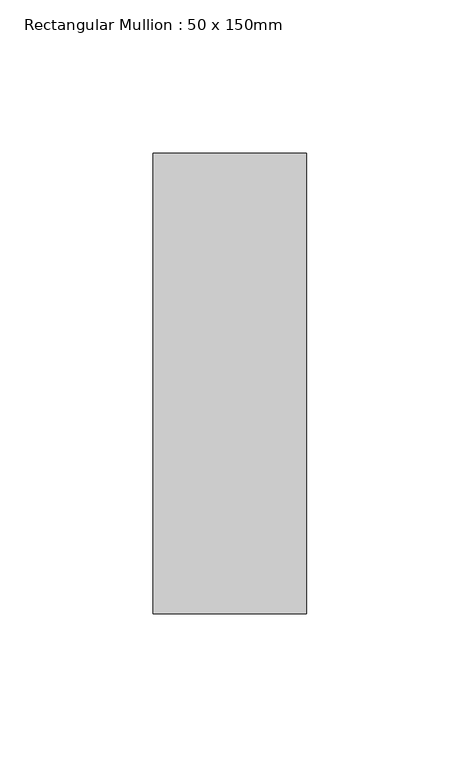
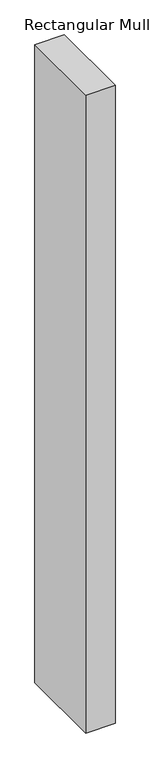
"""IFC4 building model written with IfcOpenShell, lengths in millimetres: member geometry, Rectangular Mullion : 50 x 150mm."""

from ifc_helpers import new_model, si_unit, frame, origin, place, context, project, spatial, polyline, outline, extrude, source, transform, mapped, element, save


def rectangular_mullion_50_x_150mm_bf2a19b9(model_context):
    return source(origin(), model_context, "Body", "SweptSolid", [
        extrude(outline(polyline([(0.0, 75.0), (0.0, -75.0), (-50.0, -75.0), (-50.0, 75.0), (0.0, 75.0)])), frame((0.0, 0.0, -1150.0000002), z_axis=(0.0, 0.0, 1.0), x_axis=(1.0, 0.0, 0.0)), (0.0, 0.0, 1.0), 1150.0000002),
    ])


if __name__ == "__main__":
    model = new_model("IFC4")
    model_context = context("Model", 3, world=origin())
    ifc_project = project(units=[si_unit("LENGTHUNIT", "METRE", prefix="MILLI")], contexts=[model_context])
    site = spatial("IfcSite", under=ifc_project)
    building = spatial("IfcBuilding", under=site)
    placement = place(None, origin())
    rectangular_mullion_50_x_150mm_shape = rectangular_mullion_50_x_150mm_bf2a19b9(model_context)
    element("IfcMember", 1, ObjectType="Rectangular Mullion : 50 x 150mm", at=placement, inside=building, context=model_context, shape_type="MappedRepresentation", body=[
        mapped(rectangular_mullion_50_x_150mm_shape, transform((0.0, 0.0, 0.0), x_axis=(1.0, 0.0, 0.0), y_axis=(0.0, 1.0, 0.0), z_axis=(0.0, 0.0, 1.0))),
    ])
    save(model, "model.ifc")
